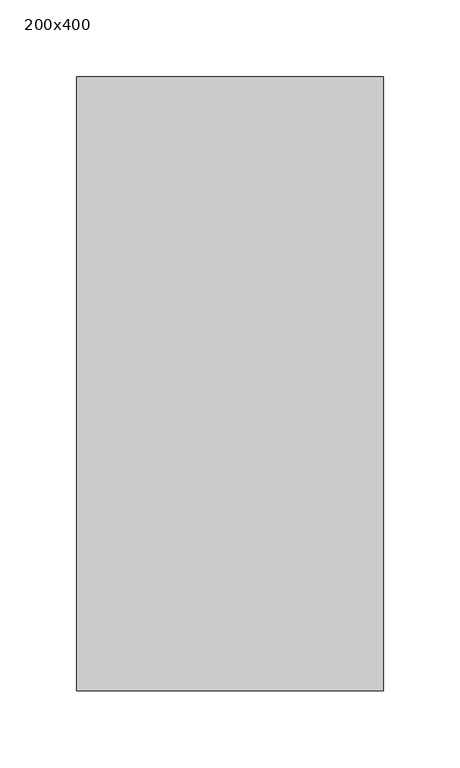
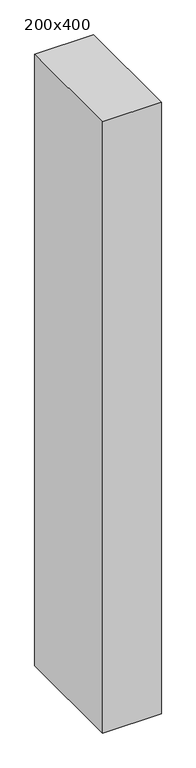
"""IFC4 building model written with IfcOpenShell, lengths in millimetres: column geometry, 混凝土 - 矩形 - 柱 : 200x400."""

import ifcopenshell
import ifcopenshell.guid

model = None  # the IFC model being written
_history = None  # IfcOwnerHistory: only IFC2X3 demands one
_inside = {}  # id of a spatial element -> (the spatial element, [elements in it])
_under = {}  # id of a project, library or spatial element -> (it, [spatial elements below it])
_declared = {}  # id of a project -> (the project, [libraries it declares])
_typed = {}  # id of a type object -> (the type object, [elements of that type])
_made_of = {}  # id of a material, layer set ... -> (it, [elements and type objects made of it])


def new_model(schema):
    """Start an empty IFC model of exactly this schema.

    Asked for "IFC4X3", IfcOpenShell would pick the latest addendum, in which some entities
    have other attributes; the version numbers below select the first issue.
    IFC2X3 requires an IfcOwnerHistory on every rooted entity: one is made here for all.
    """
    global model, _history
    if schema == "IFC4X3":
        model = ifcopenshell.file(schema_version=(4, 3, 0, 0))
    else:
        model = ifcopenshell.file(schema=schema)
    _inside.clear()
    _under.clear()
    _declared.clear()
    _typed.clear()
    _made_of.clear()
    _history = None
    if model.schema == "IFC2X3":
        org = make("IfcOrganization", Name="unknown")
        user = make(
            "IfcPersonAndOrganization",
            ThePerson=make("IfcPerson", FamilyName="unknown"),
            TheOrganization=org,
        )
        app = make(
            "IfcApplication",
            ApplicationDeveloper=org,
            Version="unknown",
            ApplicationFullName="unknown",
            ApplicationIdentifier="unknown",
        )
        _history = make(
            "IfcOwnerHistory",
            OwningUser=user,
            OwningApplication=app,
            ChangeAction="ADDED",
            CreationDate=0,
        )
    return model


def make(cls, **values):
    """One entity of the class cls with the attributes given. An attribute that is None is left unset."""
    return model.create_entity(
        cls, **{name: value for name, value in values.items() if value is not None}
    )


def rooted(cls, **values):
    """An entity with a GlobalId (a new one), such as an element, a storey or a relation."""
    return make(cls, GlobalId=ifcopenshell.guid.new(), OwnerHistory=_history, **values)


def si_unit(unit_type, name, prefix=None):
    """IfcSIUnit, for example si_unit("LENGTHUNIT", "METRE", prefix="MILLI")."""
    return make("IfcSIUnit", UnitType=unit_type, Prefix=prefix, Name=name)


def assignment(units):
    """IfcUnitAssignment: the units of a project."""
    return None if units is None else make("IfcUnitAssignment", Units=units)


def point(xyz):
    """IfcCartesianPoint."""
    return None if xyz is None else make("IfcCartesianPoint", Coordinates=xyz)


def direction(xyz):
    """IfcDirection."""
    return None if xyz is None else make("IfcDirection", DirectionRatios=xyz)


def frame(location, z_axis=None, x_axis=None):
    """IfcAxis2Placement3D, a coordinate frame: its origin and axes. An axis left out is left unset."""
    return make(
        "IfcAxis2Placement3D",
        Location=point(location),
        Axis=direction(z_axis),
        RefDirection=direction(x_axis),
    )


def origin():
    """The frame at (0, 0, 0) with its axes left unset."""
    return frame((0.0, 0.0, 0.0))


def place(relative_to, where):
    """IfcLocalPlacement: puts the frame where relative to a parent placement (None: the world)."""
    return make(
        "IfcLocalPlacement", PlacementRelTo=relative_to, RelativePlacement=where
    )


def context(
    kind, dimensions, precision=None, world=None, true_north=None, identifier=None
):
    """IfcGeometricRepresentationContext, for example the 3D "Model" context."""
    return make(
        "IfcGeometricRepresentationContext",
        ContextIdentifier=identifier,
        ContextType=kind,
        CoordinateSpaceDimension=dimensions,
        Precision=precision,
        WorldCoordinateSystem=world,
        TrueNorth=true_north,
    )


def project(units=None, contexts=None):
    """IfcProject with its units and contexts."""
    return rooted(
        "IfcProject",
        Name="project",
        RepresentationContexts=contexts,
        UnitsInContext=assignment(units),
    )


def spatial(cls, under=None, at=None, **own):
    """A site, building, storey or space (cls), placed at a placement, below another one or the project."""
    s = rooted(cls, ObjectPlacement=at, **own)
    if under is not None:
        _under.setdefault(under.id(), (under, []))[1].append(s)
    return s


def polyline(points):
    """IfcPolyline through the points."""
    return make("IfcPolyline", Points=[point(p) for p in points])


def outline(outer, holes=None, kind="AREA"):
    """IfcArbitraryClosedProfileDef: a profile drawn as a closed curve; with holes, ...WithVoids."""
    if holes is None:
        return make("IfcArbitraryClosedProfileDef", ProfileType=kind, OuterCurve=outer)
    return make(
        "IfcArbitraryProfileDefWithVoids",
        ProfileType=kind,
        OuterCurve=outer,
        InnerCurves=holes,
    )


def extrude(swept, where, along, depth):
    """IfcExtrudedAreaSolid: the profile swept, set in the frame where, extruded along a direction by depth."""
    return make(
        "IfcExtrudedAreaSolid",
        SweptArea=swept,
        Position=where,
        ExtrudedDirection=direction(along),
        Depth=depth,
    )


def shape(context_of_items, identifier, shape_type, items):
    """IfcShapeRepresentation: the items that make up one representation, for example the "Body"."""
    return make(
        "IfcShapeRepresentation",
        ContextOfItems=context_of_items,
        RepresentationIdentifier=identifier,
        RepresentationType=shape_type,
        Items=items,
    )


def source(mapping_origin, context_of_items, identifier, shape_type, items):
    """IfcRepresentationMap: a shape defined once, which mapped items show again and again."""
    return make(
        "IfcRepresentationMap",
        MappingOrigin=mapping_origin,
        MappedRepresentation=shape(context_of_items, identifier, shape_type, items),
    )


def transform(
    local_origin,
    x_axis=None,
    y_axis=None,
    z_axis=None,
    scale=None,
    scale2=None,
    scale3=None,
    uniform=True,
):
    """IfcCartesianTransformationOperator3D, or its non-uniform kind. x_axis, y_axis, z_axis: its Axis1, 2, 3."""
    if uniform:
        return make(
            "IfcCartesianTransformationOperator3D",
            Axis1=direction(x_axis),
            Axis2=direction(y_axis),
            LocalOrigin=point(local_origin),
            Scale=scale,
            Axis3=direction(z_axis),
        )
    return make(
        "IfcCartesianTransformationOperator3DnonUniform",
        Axis1=direction(x_axis),
        Axis2=direction(y_axis),
        LocalOrigin=point(local_origin),
        Scale=scale,
        Axis3=direction(z_axis),
        Scale2=scale2,
        Scale3=scale3,
    )


def mapped(mapping_source, mapping_target):
    """IfcMappedItem: shows the shape of a source again, moved by a transform."""
    return make(
        "IfcMappedItem", MappingSource=mapping_source, MappingTarget=mapping_target
    )


def made_of(thing, what):
    """Note that an element or type object is made of a material, layer set ...; save() writes the relation."""
    if what is not None:
        _made_of.setdefault(what.id(), (what, []))[1].append(thing)
    return thing


def element(
    cls,
    number,
    at=None,
    inside=None,
    cuts=None,
    type_object=None,
    material=None,
    context=None,
    identifier="Body",
    shape_type=None,
    held_by="IfcProductDefinitionShape",
    body=None,
    shapes=None,
    **own,
):
    """One element of the class cls, such as IfcWall. Its Tag is "e" and its number.

    at: its placement. inside: the storey or other place that contains it. cuts: it is an
    opening in that element (IfcRelVoidsElement). A single representation is given by context,
    identifier, shape_type and body (its items); several are given by shapes. held_by: the class
    of the entity that holds the representations. save() writes the other relations.
    """
    e = rooted(cls, Tag="e%d" % number, ObjectPlacement=at, **own)
    if body is not None:
        shapes = [shape(context, identifier, shape_type, body)]
    if shapes is not None:
        e.Representation = make(held_by, Representations=shapes)
    if inside is not None:
        _inside.setdefault(inside.id(), (inside, []))[1].append(e)
    if cuts is not None:
        rooted(
            "IfcRelVoidsElement", RelatingBuildingElement=cuts, RelatedOpeningElement=e
        )
    if type_object is not None:
        _typed.setdefault(type_object.id(), (type_object, []))[1].append(e)
    return made_of(e, material)


def aggregate(whole, parts):
    """IfcRelAggregates: a whole, such as a stair, and the parts it consists of."""
    return rooted("IfcRelAggregates", RelatingObject=whole, RelatedObjects=parts)


def save(model, path):
    """Write the relations noted so far, then the file.

    IfcRelAggregates (storeys below a building ...), IfcRelContainedInSpatialStructure (elements
    in a storey), IfcRelDefinesByType, IfcRelAssociatesMaterial and IfcRelDeclares: one each for
    every whole, place, type object, material and project.
    """
    for whole, parts in _under.values():
        aggregate(whole, parts)
    for where, things in _inside.values():
        rooted(
            "IfcRelContainedInSpatialStructure",
            RelatedElements=things,
            RelatingStructure=where,
        )
    for kind, things in _typed.values():
        rooted("IfcRelDefinesByType", RelatedObjects=things, RelatingType=kind)
    for what, things in _made_of.values():
        rooted("IfcRelAssociatesMaterial", RelatedObjects=things, RelatingMaterial=what)
    for by, libraries in _declared.values():
        rooted("IfcRelDeclares", RelatingContext=by, RelatedDefinitions=libraries)
    model.write(path)


def column_200x400_70d5f7f0(model_context):
    return source(origin(), model_context, "Body", "SweptSolid", [
        extrude(outline(polyline([(100.0, 200.0), (100.0, -200.0), (-100.0, -200.0), (-100.0, 200.0), (100.0, 200.0)])), frame((0.0, 0.0, 18800.0), z_axis=(0.0, 0.0, 1.0), x_axis=(1.0, 0.0, 0.0)), (0.0, 0.0, 1.0), 2200.0),
    ])


if __name__ == "__main__":
    model = new_model("IFC4")
    model_context = context("Model", 3, world=origin())
    ifc_project = project(units=[si_unit("LENGTHUNIT", "METRE", prefix="MILLI")], contexts=[model_context])
    site = spatial("IfcSite", under=ifc_project)
    building = spatial("IfcBuilding", under=site)
    placement = place(None, origin())
    column_200x400_shape = column_200x400_70d5f7f0(model_context)
    element("IfcColumn", 1, ObjectType="混凝土 - 矩形 - 柱 : 200x400", at=placement, inside=building, context=model_context, shape_type="MappedRepresentation", body=[
        mapped(column_200x400_shape, transform((0.0, 0.0, 0.0), x_axis=(1.0, 0.0, 0.0), y_axis=(0.0, 1.0, 0.0), z_axis=(0.0, 0.0, 1.0))),
    ])
    save(model, "model.ifc")
